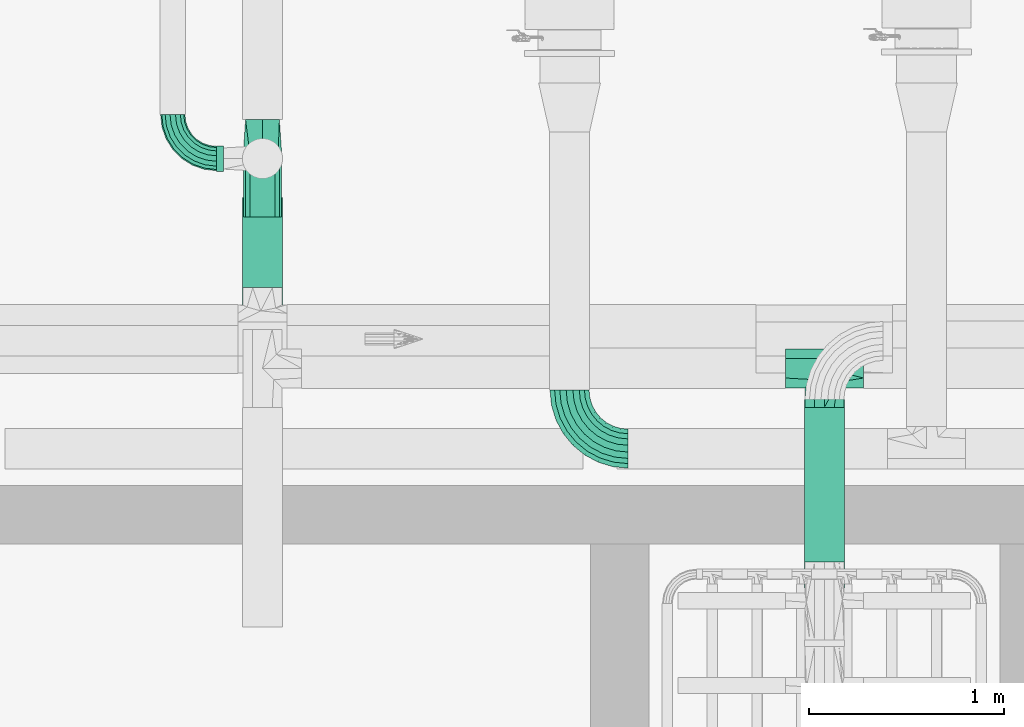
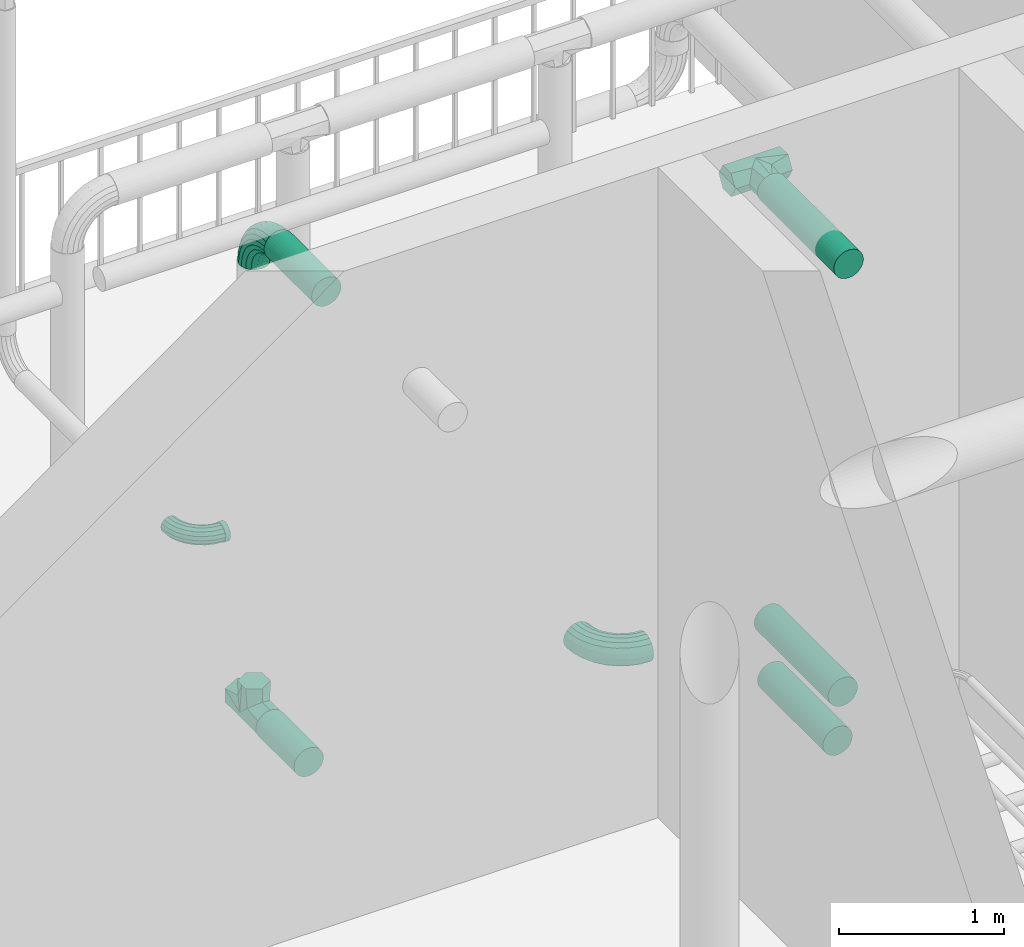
# One storey, part 15 of 28: 6 flow segments, 5 flow fittings.
"""IFC2X3 building model written with IfcOpenShell, lengths in millimetres."""

import ifcopenshell
import ifcopenshell.guid

model = None  # the IFC model being written
_history = None  # IfcOwnerHistory: only IFC2X3 demands one
_inside = {}  # id of a spatial element -> (the spatial element, [elements in it])
_under = {}  # id of a project, library or spatial element -> (it, [spatial elements below it])
_declared = {}  # id of a project -> (the project, [libraries it declares])
_typed = {}  # id of a type object -> (the type object, [elements of that type])
_made_of = {}  # id of a material, layer set ... -> (it, [elements and type objects made of it])


def new_model(schema):
    """Start an empty IFC model of exactly this schema.

    Asked for "IFC4X3", IfcOpenShell would pick the latest addendum, in which some entities
    have other attributes; the version numbers below select the first issue.
    IFC2X3 requires an IfcOwnerHistory on every rooted entity: one is made here for all.
    """
    global model, _history
    if schema == "IFC4X3":
        model = ifcopenshell.file(schema_version=(4, 3, 0, 0))
    else:
        model = ifcopenshell.file(schema=schema)
    _inside.clear()
    _under.clear()
    _declared.clear()
    _typed.clear()
    _made_of.clear()
    _history = None
    if model.schema == "IFC2X3":
        org = make("IfcOrganization", Name="unknown")
        user = make(
            "IfcPersonAndOrganization",
            ThePerson=make("IfcPerson", FamilyName="unknown"),
            TheOrganization=org,
        )
        app = make(
            "IfcApplication",
            ApplicationDeveloper=org,
            Version="unknown",
            ApplicationFullName="unknown",
            ApplicationIdentifier="unknown",
        )
        _history = make(
            "IfcOwnerHistory",
            OwningUser=user,
            OwningApplication=app,
            ChangeAction="ADDED",
            CreationDate=0,
        )
    return model


def make(cls, **values):
    """One entity of the class cls with the attributes given. An attribute that is None is left unset."""
    return model.create_entity(
        cls, **{name: value for name, value in values.items() if value is not None}
    )


def entity(cls, *values):
    """Any entity or typed value of the class cls, its attributes in the order of the schema. None: left unset."""
    e = model.create_entity(cls)
    for i, value in enumerate(values):
        if value is not None:
            e[i] = value
    return e


def rooted(cls, **values):
    """An entity with a GlobalId (a new one), such as an element, a storey or a relation."""
    return make(cls, GlobalId=ifcopenshell.guid.new(), OwnerHistory=_history, **values)


def si_unit(unit_type, name, prefix=None):
    """IfcSIUnit, for example si_unit("LENGTHUNIT", "METRE", prefix="MILLI")."""
    return make("IfcSIUnit", UnitType=unit_type, Prefix=prefix, Name=name)


def converted_unit(unit_type, name, factor, base, dimensions=None, offset=None):
    """IfcConversionBasedUnit, such as the inch: factor (a typed value) times the base unit."""
    return make(
        "IfcConversionBasedUnit"
        if offset is None
        else "IfcConversionBasedUnitWithOffset",
        ConversionOffset=offset,
        Dimensions=None
        if dimensions is None
        else entity("IfcDimensionalExponents", *dimensions),
        UnitType=unit_type,
        Name=name,
        ConversionFactor=make(
            "IfcMeasureWithUnit", ValueComponent=factor, UnitComponent=base
        ),
    )


def assignment(units):
    """IfcUnitAssignment: the units of a project."""
    return None if units is None else make("IfcUnitAssignment", Units=units)


def point(xyz):
    """IfcCartesianPoint."""
    return None if xyz is None else make("IfcCartesianPoint", Coordinates=xyz)


def direction(xyz):
    """IfcDirection."""
    return None if xyz is None else make("IfcDirection", DirectionRatios=xyz)


def frame(location, z_axis=None, x_axis=None):
    """IfcAxis2Placement3D, a coordinate frame: its origin and axes. An axis left out is left unset."""
    return make(
        "IfcAxis2Placement3D",
        Location=point(location),
        Axis=direction(z_axis),
        RefDirection=direction(x_axis),
    )


def frame_2d(location, x_axis=None):
    """IfcAxis2Placement2D, a coordinate frame in the plane: its origin and x axis."""
    return make(
        "IfcAxis2Placement2D", Location=point(location), RefDirection=direction(x_axis)
    )


def origin():
    """The frame at (0, 0, 0) with its axes left unset."""
    return frame((0.0, 0.0, 0.0))


def origin_2d_with_axis():
    """The frame at (0, 0) in the plane with the x axis (1, 0) written out."""
    return frame_2d((0.0, 0.0), x_axis=(1.0, 0.0))


def place(relative_to, where):
    """IfcLocalPlacement: puts the frame where relative to a parent placement (None: the world)."""
    return make(
        "IfcLocalPlacement", PlacementRelTo=relative_to, RelativePlacement=where
    )


def context(
    kind, dimensions, precision=None, world=None, true_north=None, identifier=None
):
    """IfcGeometricRepresentationContext, for example the 3D "Model" context."""
    return make(
        "IfcGeometricRepresentationContext",
        ContextIdentifier=identifier,
        ContextType=kind,
        CoordinateSpaceDimension=dimensions,
        Precision=precision,
        WorldCoordinateSystem=world,
        TrueNorth=true_north,
    )


def subcontext(parent, identifier, kind, view, scale=None):
    """IfcGeometricRepresentationSubContext, for example "Body" below "Model"."""
    return make(
        "IfcGeometricRepresentationSubContext",
        ContextIdentifier=identifier,
        ContextType=kind,
        ParentContext=parent,
        TargetScale=scale,
        TargetView=view,
    )


def project(units=None, contexts=None):
    """IfcProject with its units and contexts."""
    return rooted(
        "IfcProject",
        Name="project",
        RepresentationContexts=contexts,
        UnitsInContext=assignment(units),
    )


def spatial(cls, under=None, at=None, **own):
    """A site, building, storey or space (cls), placed at a placement, below another one or the project."""
    s = rooted(cls, ObjectPlacement=at, **own)
    if under is not None:
        _under.setdefault(under.id(), (under, []))[1].append(s)
    return s


def profile(cls, at=None, kind="AREA", **sizes):
    """A parametric profile (cls). Its sizes go by their IFC names, for example OverallWidth=200.0."""
    return make(cls, ProfileType=kind, Position=at, **sizes)


def circle(**sizes):
    """IfcCircleProfileDef."""
    return profile("IfcCircleProfileDef", **sizes)


def extrude(swept, where, along, depth):
    """IfcExtrudedAreaSolid: the profile swept, set in the frame where, extruded along a direction by depth."""
    return make(
        "IfcExtrudedAreaSolid",
        SweptArea=swept,
        Position=where,
        ExtrudedDirection=direction(along),
        Depth=depth,
    )


def faces_of(points, faces, orient=None, outer=None):
    """IfcFace entities. A face is a list of loops; a loop is a list of indices into points, from 0.

    orient and outer hold one flag for each loop. By default every Orientation is true, the
    first loop of a face is its IfcFaceOuterBound and the others are IfcFaceBound.
    """
    made = []
    for i, loops in enumerate(faces):
        bounds = []
        for j, loop in enumerate(loops):
            is_outer = j == 0 if outer is None else outer[i][j]
            bounds.append(
                make(
                    "IfcFaceOuterBound" if is_outer else "IfcFaceBound",
                    Bound=make("IfcPolyLoop", Polygon=[points[k] for k in loop]),
                    Orientation=True if orient is None else orient[i][j],
                )
            )
        made.append(make("IfcFace", Bounds=bounds))
    return made


def faceted_brep(points, faces, orient=None, outer=None, voids=None):
    """IfcFacetedBrep: a solid bounded by flat faces; with voids (closed shells), ...WithVoids."""
    shared = [point(p) for p in points]
    hull = make("IfcClosedShell", CfsFaces=faces_of(shared, faces, orient, outer))
    if voids is None:
        return make("IfcFacetedBrep", Outer=hull)
    return make(
        "IfcFacetedBrepWithVoids",
        Outer=hull,
        Voids=[
            make(cls, CfsFaces=faces_of(shared, fs, o, b)) for cls, fs, o, b in voids
        ],
    )


def shape(context_of_items, identifier, shape_type, items):
    """IfcShapeRepresentation: the items that make up one representation, for example the "Body"."""
    return make(
        "IfcShapeRepresentation",
        ContextOfItems=context_of_items,
        RepresentationIdentifier=identifier,
        RepresentationType=shape_type,
        Items=items,
    )


def source(mapping_origin, context_of_items, identifier, shape_type, items):
    """IfcRepresentationMap: a shape defined once, which mapped items show again and again."""
    return make(
        "IfcRepresentationMap",
        MappingOrigin=mapping_origin,
        MappedRepresentation=shape(context_of_items, identifier, shape_type, items),
    )


def transform(
    local_origin,
    x_axis=None,
    y_axis=None,
    z_axis=None,
    scale=None,
    scale2=None,
    scale3=None,
    uniform=True,
):
    """IfcCartesianTransformationOperator3D, or its non-uniform kind. x_axis, y_axis, z_axis: its Axis1, 2, 3."""
    if uniform:
        return make(
            "IfcCartesianTransformationOperator3D",
            Axis1=direction(x_axis),
            Axis2=direction(y_axis),
            LocalOrigin=point(local_origin),
            Scale=scale,
            Axis3=direction(z_axis),
        )
    return make(
        "IfcCartesianTransformationOperator3DnonUniform",
        Axis1=direction(x_axis),
        Axis2=direction(y_axis),
        LocalOrigin=point(local_origin),
        Scale=scale,
        Axis3=direction(z_axis),
        Scale2=scale2,
        Scale3=scale3,
    )


def mapped(mapping_source, mapping_target):
    """IfcMappedItem: shows the shape of a source again, moved by a transform."""
    return make(
        "IfcMappedItem", MappingSource=mapping_source, MappingTarget=mapping_target
    )


def material(Name=None, Category=None):
    """IfcMaterial."""
    return make("IfcMaterial", Name=Name, Category=Category)


def made_of(thing, what):
    """Note that an element or type object is made of a material, layer set ...; save() writes the relation."""
    if what is not None:
        _made_of.setdefault(what.id(), (what, []))[1].append(thing)
    return thing


def type_object(cls, material=None, **own):
    """A type object (cls), such as IfcWallType, which elements share."""
    return made_of(rooted(cls, **own), material)


def type_shapes(of_type, sources):
    """Give a type object the sources (RepresentationMaps) that its elements show as mapped items."""
    of_type.RepresentationMaps = sources


def element(
    cls,
    number,
    at=None,
    inside=None,
    cuts=None,
    type_object=None,
    material=None,
    context=None,
    identifier="Body",
    shape_type=None,
    held_by="IfcProductDefinitionShape",
    body=None,
    shapes=None,
    **own,
):
    """One element of the class cls, such as IfcWall. Its Tag is "e" and its number.

    at: its placement. inside: the storey or other place that contains it. cuts: it is an
    opening in that element (IfcRelVoidsElement). A single representation is given by context,
    identifier, shape_type and body (its items); several are given by shapes. held_by: the class
    of the entity that holds the representations. save() writes the other relations.
    """
    e = rooted(cls, Tag="e%d" % number, ObjectPlacement=at, **own)
    if body is not None:
        shapes = [shape(context, identifier, shape_type, body)]
    if shapes is not None:
        e.Representation = make(held_by, Representations=shapes)
    if inside is not None:
        _inside.setdefault(inside.id(), (inside, []))[1].append(e)
    if cuts is not None:
        rooted(
            "IfcRelVoidsElement", RelatingBuildingElement=cuts, RelatedOpeningElement=e
        )
    if type_object is not None:
        _typed.setdefault(type_object.id(), (type_object, []))[1].append(e)
    return made_of(e, material)


def aggregate(whole, parts):
    """IfcRelAggregates: a whole, such as a stair, and the parts it consists of."""
    return rooted("IfcRelAggregates", RelatingObject=whole, RelatedObjects=parts)


def save(model, path):
    """Write the relations noted so far, then the file.

    IfcRelAggregates (storeys below a building ...), IfcRelContainedInSpatialStructure (elements
    in a storey), IfcRelDefinesByType, IfcRelAssociatesMaterial and IfcRelDeclares: one each for
    every whole, place, type object, material and project.
    """
    for whole, parts in _under.values():
        aggregate(whole, parts)
    for where, things in _inside.values():
        rooted(
            "IfcRelContainedInSpatialStructure",
            RelatedElements=things,
            RelatingStructure=where,
        )
    for kind, things in _typed.values():
        rooted("IfcRelDefinesByType", RelatedObjects=things, RelatingType=kind)
    for what, things in _made_of.values():
        rooted("IfcRelAssociatesMaterial", RelatedObjects=things, RelatingMaterial=what)
    for by, libraries in _declared.values():
        rooted("IfcRelDeclares", RelatingContext=by, RelatedDefinitions=libraries)
    model.write(path)


model = new_model("IFC2X3")

# Units and contexts
model_context = context("Model", 3, precision=0.01, world=origin(), true_north=direction((6.123031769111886e-17, 1.0)))
body_context = subcontext(model_context, "Body", "Model", "MODEL_VIEW")
ifc_project = project(units=[si_unit("LENGTHUNIT", "METRE", prefix="MILLI"), converted_unit("PLANEANGLEUNIT", "DEGREE", entity("IfcPlaneAngleMeasure", 0.017453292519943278), si_unit("PLANEANGLEUNIT", "RADIAN"), dimensions=[0, 0, 0, 0, 0, 0, 0]), si_unit("AREAUNIT", "SQUARE_METRE")], contexts=[model_context])

# Site, building, storey
site_placement = place(None, frame((7776.576483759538, 118.3519876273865, 0.0)))
site = spatial("IfcSite", under=ifc_project, at=site_placement, Name="Default", CompositionType="ELEMENT")
building_placement = place(site_placement, origin())
building = spatial("IfcBuilding", under=site, at=building_placement, Name="Bygning (endres i Project Information)", CompositionType="ELEMENT")
storey_placement = place(building_placement, frame((0.0, 0.0, 14000.0)))
storey = spatial("IfcBuildingStorey", under=building, at=storey_placement, Name="Plan U1 - Arbeid", CompositionType="ELEMENT", Elevation=14000.000000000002)

# Flow segments
ifc_material = material(Name="SS 2343 Rustfritt stål, prosessrør, generisk")
pipe_segment_type = type_object("IfcPipeSegmentType", Name="Pipe Types:AISI 304L Rustfritt", PredefinedType="NOTDEFINED", material=ifc_material)
flow_segment_1_placement = place(storey_placement, origin())
element("IfcFlowSegment", 1, at=flow_segment_1_placement, inside=storey, type_object=pipe_segment_type, Name="Pipe Types:AISI 304L Rustfritt", ObjectType="Pipe Types:AISI 304L Rustfritt", context=body_context, shape_type="SweptSolid", body=[
    extrude(circle(Radius=103.0, at=frame_2d((4.331468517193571e-12, -2.165734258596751e-12), x_axis=(1.0, 0.0))), frame((28974.00137486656, 24105.75730578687, 203.0), z_axis=(0.0, 1.0, 0.0), x_axis=(-1.0, 0.0, 0.0)), (0.0, 0.0, 1.0), 791.9999999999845),
])
flow_segment_2_placement = place(storey_placement, origin())
element("IfcFlowSegment", 2, at=flow_segment_2_placement, inside=storey, type_object=pipe_segment_type, Name="Pipe Types:AISI 304L Rustfritt", ObjectType="Pipe Types:AISI 304L Rustfritt", context=body_context, shape_type="SweptSolid", body=[
    extrude(circle(Radius=103.0, at=frame_2d((-8.662937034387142e-12, 0.0), x_axis=(1.0, 0.0))), frame((28974.001374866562, 23972.377048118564, 3803.0), z_axis=(0.0, 1.0, 0.0), x_axis=(-1.0, 0.0, 0.0)), (0.0, 0.0, 1.0), 925.3802576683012),
])
flow_segment_3_placement = place(storey_placement, origin())
element("IfcFlowSegment", 3, at=flow_segment_3_placement, inside=storey, type_object=pipe_segment_type, Name="Pipe Types:AISI 304L Rustfritt", ObjectType="Pipe Types:AISI 304L Rustfritt", context=body_context, shape_type="SweptSolid", body=[
    extrude(circle(Radius=103.0, at=frame_2d((-4.331468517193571e-12, 2.1657342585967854e-12), x_axis=(1.0, 0.0))), frame((28974.001374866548, 24042.757305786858, 603.0), z_axis=(0.0, 1.0, 0.0), x_axis=(-1.0, 0.0, 0.0)), (0.0, 0.0, 1.0), 895.0000000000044),
])
flow_segment_4_placement = place(storey_placement, origin())
element("IfcFlowSegment", 4, at=flow_segment_4_placement, inside=storey, type_object=pipe_segment_type, Name="Pipe Types:AISI 304L Rustfritt", ObjectType="Pipe Types:AISI 304L Rustfritt", context=body_context, shape_type="SweptSolid", body=[
    extrude(circle(Radius=103.0, at=frame_2d((4.331468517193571e-12, 0.0), x_axis=(1.0, 0.0))), frame((26093.826249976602, 25510.519805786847, 203.0), z_axis=(0.0, 1.0, 0.0), x_axis=(-1.0, 0.0, 0.0)), (0.0, 0.0, 1.0), 462.23750000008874),
])
flow_segment_5_placement = place(storey_placement, origin())
element("IfcFlowSegment", 5, at=flow_segment_5_placement, inside=storey, type_object=pipe_segment_type, Name="Pipe Types:AISI 304L Rustfritt", ObjectType="Pipe Types:AISI 304L Rustfritt", context=body_context, shape_type="SweptSolid", body=[
    extrude(circle(Radius=103.0, at=frame_2d((-4.331468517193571e-12, 0.0), x_axis=(1.0, 0.0))), frame((26093.82624997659, 25297.757305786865, 3803.0), z_axis=(0.0, 1.0, 0.0), x_axis=(-1.0, 0.0, 0.0)), (0.0, 0.0, 1.0), 575.0000000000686),
])
flow_segment_6_placement = place(storey_placement, origin())
element("IfcFlowSegment", 6, at=flow_segment_6_placement, inside=storey, type_object=pipe_segment_type, Name="Pipe Types:AISI 304L Rustfritt", ObjectType="Pipe Types:AISI 304L Rustfritt", context=body_context, shape_type="SweptSolid", body=[
    extrude(circle(Radius=65.5, at=origin_2d_with_axis()), frame((25859.001374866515, 26172.757305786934, 1580.0), z_axis=(1.0, 0.0, 0.0), x_axis=(0.0, 1.0, 0.0)), (0.0, 0.0, 1.0), 34.82487511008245),
])

# Flow fittings
pipe_fitting_type_1 = type_object("IfcPipeFittingType", Name="VA_prosess_rustfritt_bend_D+100:VA_prosess_rustfritt_bend_D+100", PredefinedType="NOTDEFINED", material=ifc_material)
shared_shape_1 = source(origin(), body_context, "Body", "Brep", [
    faceted_brep([(-221.96387119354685, -92.314112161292, 0.0), (-223.1404097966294, -86.39925317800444, 34.202014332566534), (-300.0, -93.96926207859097, 34.202014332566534), (-300.0, -100.0, 0.0), (-226.52811768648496, -69.36809551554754, 64.27876096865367), (-300.0, -76.60444431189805, 64.27876096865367), (-231.71838729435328, -43.274848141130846, 86.60254037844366), (-300.0, -50.0, 86.60254037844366), (-238.08519550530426, -11.266741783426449, 98.48077530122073), (-300.0, -17.36481776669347, 98.48077530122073), (-244.86061128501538, 22.79557354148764, 98.48077530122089), (-300.0, 17.36481776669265, 98.48077530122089), (-251.22741949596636, 54.80367989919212, 86.60254037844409), (-300.0, 50.0, 86.60254037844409), (-256.41768910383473, 80.89692727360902, 64.27876096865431), (-300.0, 76.60444431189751, 64.27876096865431), (-259.8053969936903, 97.92808493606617, 34.202014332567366), (-300.0, 93.96926207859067, 34.202014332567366), (-260.9819355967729, 103.84294391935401, 0.0), (-300.0, 100.0, 0.0), (-259.8053969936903, 97.92808493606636, -34.20201433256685), (-300.0, 93.96926207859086, -34.20201433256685), (-256.4176891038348, 80.89692727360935, -64.2787609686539), (-300.0, 76.60444431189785, -64.2787609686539), (-251.22741949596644, 54.80367989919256, -86.60254037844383), (-300.0, 50.0, -86.60254037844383), (-244.86061128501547, 22.795573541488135, -98.48077530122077), (-300.0, 17.364817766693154, -98.48077530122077), (-238.08519550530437, -11.26674178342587, -98.48077530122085), (-300.0, -17.36481776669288, -98.48077530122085), (-231.71838729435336, -43.27484814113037, -86.60254037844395), (-300.0, -50.0, -86.60254037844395), (-226.52811768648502, -69.3680955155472, -64.27876096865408), (-300.0, -76.6044443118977, -64.27876096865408), (-223.14040979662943, -86.39925317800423, -34.2020143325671), (-300.0, -93.96926207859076, -34.2020143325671), (-146.9266270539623, -69.55181300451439, 0.0), (-149.2344905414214, -63.98013767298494, 34.202014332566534), (-155.87971860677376, -47.937137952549, 64.27876096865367), (-166.06079867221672, -23.357836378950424, 86.60254037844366), (-178.54974222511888, 6.79314052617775, 98.48077530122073), (-191.8401983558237, 38.87913996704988, 98.48077530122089), (-204.32914190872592, 69.03011687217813, 86.60254037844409), (-214.51022197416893, 93.6094184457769, 64.27876096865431), (-221.15545003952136, 109.65241816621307, 34.202014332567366), (-223.46331352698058, 115.2240934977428, 0.0), (-221.15545003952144, 109.65241816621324, -34.20201433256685), (-214.51022197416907, 93.60941844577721, -64.2787609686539), (-204.3291419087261, 69.03011687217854, -86.60254037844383), (-191.8401983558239, 38.87913996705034, -98.48077530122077), (-178.5497422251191, 6.7931405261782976, -98.48077530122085), (-166.0607986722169, -23.357836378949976, -86.60254037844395), (-155.8797186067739, -47.937137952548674, -64.27876096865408), (-149.23449054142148, -63.98013767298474, -34.2020143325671), (-77.77190679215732, -32.58784492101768, 0.0), (-81.12240526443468, -27.573469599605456, 34.202014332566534), (-90.76978111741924, -13.135151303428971, 64.27876096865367), (-105.5504184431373, 8.985635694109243, 86.60254037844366), (-123.68155424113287, 36.120798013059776, 98.48077530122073), (-142.97630594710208, 64.997434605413, 98.48077530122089), (-161.1074417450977, 92.13259692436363, 86.60254037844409), (-175.88807907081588, 114.253383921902, 64.27876096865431), (-185.53545492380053, 128.69170221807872, 34.202014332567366), (-188.88595339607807, 133.70607753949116, 0.0), (-185.53545492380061, 128.69170221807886, -34.20201433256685), (-175.88807907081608, 114.25338392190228, -64.2787609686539), (-161.10744174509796, 92.132596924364, -86.60254037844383), (-142.97630594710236, 64.99743460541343, -98.48077530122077), (-123.68155424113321, 36.120798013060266, -98.48077530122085), (-105.55041844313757, 8.985635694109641, -86.60254037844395), (-90.76978111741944, -13.135151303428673, -64.27876096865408), (-81.12240526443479, -27.573469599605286, -34.2020143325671), (-17.15728752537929, 17.157287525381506, 0.0), (-21.421663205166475, 21.42166320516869, 34.202014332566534), (-33.70044360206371, 33.700443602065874, 64.27876096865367), (-52.51262658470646, 52.512626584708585, 86.60254037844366), (-75.58918524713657, 75.58918524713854, 98.48077530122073), (-100.14674604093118, 100.14674604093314, 98.48077530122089), (-123.22330470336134, 123.22330470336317, 86.60254037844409), (-142.03548768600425, 142.035487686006, 64.27876096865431), (-154.3142680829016, 154.3142680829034, 34.202014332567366), (-158.578643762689, 158.57864376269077, 0.0), (-154.31426808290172, 154.31426808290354, -34.20201433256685), (-142.03548768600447, 142.03548768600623, -64.2787609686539), (-123.22330470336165, 123.2233047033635, -86.60254037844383), (-100.14674604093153, 100.1467460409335, -98.48077530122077), (-75.58918524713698, 75.58918524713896, -98.48077530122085), (-52.51262658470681, 52.512626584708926, -86.60254037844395), (-33.700443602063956, 33.70044360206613, -64.27876096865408), (-21.42166320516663, 21.421663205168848, -34.2020143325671), (32.58784492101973, 77.77190679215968, 0.0), (27.573469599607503, 81.12240526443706, 34.202014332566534), (13.135151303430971, 90.76978111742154, 64.27876096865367), (-8.985635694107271, 105.55041844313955, 86.60254037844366), (-36.1207980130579, 123.68155424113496, 98.48077530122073), (-64.99743460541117, 142.97630594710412, 98.48077530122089), (-92.13259692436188, 161.10744174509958, 86.60254037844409), (-114.25338392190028, 175.88807907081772, 64.27876096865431), (-128.69170221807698, 185.53545492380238, 34.202014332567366), (-133.70607753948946, 188.8859533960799, 0.0), (-128.69170221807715, 185.5354549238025, -34.20201433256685), (-114.25338392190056, 175.8880790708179, -64.2787609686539), (-92.13259692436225, 161.10744174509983, -86.60254037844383), (-64.99743460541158, 142.9763059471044, -98.48077530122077), (-36.12079801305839, 123.68155424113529, -98.48077530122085), (-8.985635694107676, 105.55041844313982, -86.60254037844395), (13.13515130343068, 90.76978111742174, -64.27876096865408), (27.573469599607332, 81.12240526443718, -34.2020143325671), (69.55181300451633, 146.92662705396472, 0.0), (63.98013767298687, 149.23449054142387, 34.202014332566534), (47.937137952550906, 155.87971860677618, 64.27876096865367), (23.357836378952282, 166.06079867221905, 86.60254037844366), (-6.793140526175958, 178.54974222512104, 98.48077530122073), (-38.879139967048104, 191.8401983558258, 98.48077530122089), (-69.03011687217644, 204.32914190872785, 86.60254037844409), (-93.60941844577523, 214.5102219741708, 64.27876096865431), (-109.65241816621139, 221.15545003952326, 34.202014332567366), (-115.22409349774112, 223.46331352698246, 0.0), (-109.65241816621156, 221.15545003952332, -34.20201433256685), (-93.60941844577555, 214.51022197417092, -64.2787609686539), (-69.03011687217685, 204.32914190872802, -86.60254037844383), (-38.87913996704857, 191.840198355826, -98.48077530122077), (-6.793140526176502, 178.54974222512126, -98.48077530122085), (23.357836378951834, 166.06079867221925, -86.60254037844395), (47.93713795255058, 155.87971860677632, -64.27876096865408), (63.98013767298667, 149.23449054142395, -34.2020143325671), (92.31411216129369, 221.96387119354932, 0.0), (86.39925317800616, 223.1404097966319, 34.202014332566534), (69.36809551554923, 226.52811768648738, 64.27876096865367), (43.27484814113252, 231.71838729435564, 86.60254037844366), (11.266741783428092, 238.08519550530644, 98.48077530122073), (-22.795573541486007, 244.86061128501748, 98.48077530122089), (-54.80367989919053, 251.22741949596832, 86.60254037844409), (-80.89692727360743, 256.4176891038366, 64.27876096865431), (-97.9280849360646, 259.80539699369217, 34.202014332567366), (-103.84294391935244, 260.9819355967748, 0.0), (-97.92808493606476, 259.8053969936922, -34.20201433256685), (-80.89692727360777, 256.41768910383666, -64.2787609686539), (-54.80367989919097, 251.2274194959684, -86.60254037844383), (-22.795573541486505, 244.8606112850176, -98.48077530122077), (11.266741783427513, 238.08519550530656, -98.48077530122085), (43.27484814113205, 231.71838729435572, -86.60254037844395), (69.36809551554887, 226.52811768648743, -64.27876096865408), (86.39925317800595, 223.14040979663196, -34.2020143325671), (100.0, 300.0, 0.0), (93.96926207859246, 300.0, 34.202014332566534), (76.60444431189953, 300.0, 64.27876096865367), (50.0, 300.0, 86.60254037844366), (17.36481776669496, 300.0, 98.48077530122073), (-17.36481776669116, 300.0, 98.48077530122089), (-50.0, 300.0, 86.60254037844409), (-76.60444431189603, 300.0, 64.27876096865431), (-93.9692620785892, 300.0, 34.202014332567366), (-100.0, 300.0, 0.0), (-93.96926207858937, 300.0, -34.20201433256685), (-76.60444431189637, 300.0, -64.2787609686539), (-50.0, 300.0, -86.60254037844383), (-17.364817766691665, 300.0, -98.48077530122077), (17.36481776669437, 300.0, -98.48077530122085), (50.0, 300.0, -86.60254037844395), (76.60444431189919, 300.0, -64.27876096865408), (93.96926207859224, 300.0, -34.2020143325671)], [[[0, 1, 2, 3]], [[1, 4, 5, 2]], [[4, 6, 7, 5]], [[6, 8, 9, 7]], [[8, 10, 11, 9]], [[10, 12, 13, 11]], [[12, 14, 15, 13]], [[14, 16, 17, 15]], [[16, 18, 19, 17]], [[18, 20, 21, 19]], [[20, 22, 23, 21]], [[22, 24, 25, 23]], [[24, 26, 27, 25]], [[26, 28, 29, 27]], [[28, 30, 31, 29]], [[30, 32, 33, 31]], [[32, 34, 35, 33]], [[34, 0, 3, 35]], [[36, 37, 1, 0]], [[37, 38, 4, 1]], [[38, 39, 6, 4]], [[39, 40, 8, 6]], [[40, 41, 10, 8]], [[41, 42, 12, 10]], [[42, 43, 14, 12]], [[43, 44, 16, 14]], [[44, 45, 18, 16]], [[45, 46, 20, 18]], [[46, 47, 22, 20]], [[47, 48, 24, 22]], [[48, 49, 26, 24]], [[49, 50, 28, 26]], [[50, 51, 30, 28]], [[51, 52, 32, 30]], [[52, 53, 34, 32]], [[53, 36, 0, 34]], [[54, 55, 37, 36]], [[55, 56, 38, 37]], [[56, 57, 39, 38]], [[57, 58, 40, 39]], [[58, 59, 41, 40]], [[59, 60, 42, 41]], [[60, 61, 43, 42]], [[61, 62, 44, 43]], [[62, 63, 45, 44]], [[63, 64, 46, 45]], [[64, 65, 47, 46]], [[65, 66, 48, 47]], [[66, 67, 49, 48]], [[67, 68, 50, 49]], [[68, 69, 51, 50]], [[69, 70, 52, 51]], [[70, 71, 53, 52]], [[71, 54, 36, 53]], [[72, 73, 55, 54]], [[73, 74, 56, 55]], [[74, 75, 57, 56]], [[75, 76, 58, 57]], [[76, 77, 59, 58]], [[77, 78, 60, 59]], [[78, 79, 61, 60]], [[79, 80, 62, 61]], [[80, 81, 63, 62]], [[81, 82, 64, 63]], [[82, 83, 65, 64]], [[83, 84, 66, 65]], [[84, 85, 67, 66]], [[85, 86, 68, 67]], [[86, 87, 69, 68]], [[87, 88, 70, 69]], [[88, 89, 71, 70]], [[89, 72, 54, 71]], [[90, 91, 73, 72]], [[91, 92, 74, 73]], [[92, 93, 75, 74]], [[93, 94, 76, 75]], [[94, 95, 77, 76]], [[95, 96, 78, 77]], [[96, 97, 79, 78]], [[97, 98, 80, 79]], [[98, 99, 81, 80]], [[99, 100, 82, 81]], [[100, 101, 83, 82]], [[101, 102, 84, 83]], [[102, 103, 85, 84]], [[103, 104, 86, 85]], [[104, 105, 87, 86]], [[105, 106, 88, 87]], [[106, 107, 89, 88]], [[107, 90, 72, 89]], [[108, 109, 91, 90]], [[109, 110, 92, 91]], [[110, 111, 93, 92]], [[111, 112, 94, 93]], [[112, 113, 95, 94]], [[113, 114, 96, 95]], [[114, 115, 97, 96]], [[115, 116, 98, 97]], [[116, 117, 99, 98]], [[117, 118, 100, 99]], [[118, 119, 101, 100]], [[119, 120, 102, 101]], [[120, 121, 103, 102]], [[121, 122, 104, 103]], [[122, 123, 105, 104]], [[123, 124, 106, 105]], [[124, 125, 107, 106]], [[125, 108, 90, 107]], [[126, 127, 109, 108]], [[127, 128, 110, 109]], [[128, 129, 111, 110]], [[129, 130, 112, 111]], [[130, 131, 113, 112]], [[131, 132, 114, 113]], [[132, 133, 115, 114]], [[133, 134, 116, 115]], [[134, 135, 117, 116]], [[135, 136, 118, 117]], [[136, 137, 119, 118]], [[137, 138, 120, 119]], [[138, 139, 121, 120]], [[139, 140, 122, 121]], [[140, 141, 123, 122]], [[141, 142, 124, 123]], [[142, 143, 125, 124]], [[143, 126, 108, 125]], [[144, 145, 127, 126]], [[145, 146, 128, 127]], [[146, 147, 129, 128]], [[147, 148, 130, 129]], [[148, 149, 131, 130]], [[149, 150, 132, 131]], [[150, 151, 133, 132]], [[151, 152, 134, 133]], [[152, 153, 135, 134]], [[153, 154, 136, 135]], [[154, 155, 137, 136]], [[155, 156, 138, 137]], [[156, 157, 139, 138]], [[157, 158, 140, 139]], [[158, 159, 141, 140]], [[159, 160, 142, 141]], [[160, 161, 143, 142]], [[161, 144, 126, 143]], [[3, 2, 5, 7, 9, 11, 13, 15, 17, 19, 21, 23, 25, 27, 29, 31, 33, 35]], [[161, 160, 159, 158, 157, 156, 155, 154, 153, 152, 151, 150, 149, 148, 147, 146, 145, 144]]]),
])
type_shapes(pipe_fitting_type_1, [shared_shape_1])
for number, where, z_axis, x_axis in (
    (7, (26093.826249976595, 26172.757305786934, 3803.0), (1.0, 0.0, 0.0), (0.0, 0.0, 1.0)),
    (8, (27667.696048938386, 24685.75730578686, 903.5000000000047), (0.0, 0.0, 1.0), (0.0, -1.0, 0.0)),
):
    element("IfcFlowFitting", number, at=place(storey_placement, frame(where, z_axis=z_axis, x_axis=x_axis)), inside=storey, type_object=pipe_fitting_type_1, material=ifc_material, Name="VA_prosess_rustfritt_bend_D+100:VA_prosess_rustfritt_bend_D+100", ObjectType="VA_prosess_rustfritt_bend_D+100:VA_prosess_rustfritt_bend_D+100", context=body_context, shape_type="MappedRepresentation", body=[
        mapped(shared_shape_1, transform((0.0, 0.0, 0.0), scale=1.0)),
    ])
pipe_fitting_type_2 = type_object("IfcPipeFittingType", Name="VA_prosess_rustfritt_T_D=L:T-rør_prosess_D=L", PredefinedType="NOTDEFINED", material=ifc_material)
shared_shape_2 = source(origin(), body_context, "Body", "Brep", [
    faceted_brep([(-200.0, -100.0, 0.0), (-200.0, -87.49999999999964, 21.65063509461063), (-200.0, -75.0, 43.30127018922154), (-200.0, -50.0, 86.60254037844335), (-200.0, 0.0, 86.60254037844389), (-200.0, 50.0, 86.60254037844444), (-200.0, 75.0, 43.30127018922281), (-200.0, 100.0, 0.0), (-200.0, 79.16042262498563, -36.0952068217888), (-200.0, 50.0, -86.60254037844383), (-200.0, 0.0, -86.60254037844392), (-200.0, -50.0, -86.60254037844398), (-200.0, -75.0, -43.301270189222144), (200.0, 50.0, -86.60254037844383), (200.0, 75.0, -43.30127018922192), (200.0, 100.0, 0.0), (200.0, 75.0, 43.30127018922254), (200.0, 50.0, 86.60254037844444), (200.0, 0.0, 86.60254037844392), (200.0, -50.0, 86.60254037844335), (200.0, -75.0, 43.3012701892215), (200.0, -100.0, 0.0), (200.0, -87.50000000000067, -21.650635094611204), (200.0, -75.0, -43.30127018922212), (200.0, -50.0, -86.60254037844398), (200.0, 0.0, -86.60254037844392), (85.43158849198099, -85.43158849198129, 35.2789248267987), (70.86317698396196, -70.8631769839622, 70.55784965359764), (0.0, 0.0, 100.0), (-58.003463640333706, -58.00346364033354, 81.45918122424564), (100.0, -100.0, 0.0), (-100.0, -100.0, 0.0), (-80.86239826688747, -80.86239826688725, 37.12052237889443), (-79.00173182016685, -79.00173182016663, 40.7295906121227), (80.86239826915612, -80.86239826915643, -37.120522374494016), (-85.43158849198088, -85.43158849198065, -35.27892482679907), (0.0, 0.0, -100.0), (79.00173182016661, -79.00173182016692, -40.729590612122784), (58.003463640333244, -58.0034636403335, -81.45918122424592), (-70.86317698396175, -70.86317698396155, -70.55784965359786), (50.0, -200.0, -86.60254037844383), (79.16042328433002, -200.0, -36.09520567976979), (100.0, -200.0, 0.0), (75.0, -200.0, 43.301270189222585), (50.0, -200.0, 86.60254037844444), (0.0, -200.0, 86.60254037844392), (-50.0, -200.0, 86.60254037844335), (-79.16042252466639, -200.0, 36.09520699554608), (-100.0, -200.0, 0.0), (-75.0, -200.0, -43.30127018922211), (-50.0, -200.0, -86.60254037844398), (0.0, -200.0, -86.60254037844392)], [[[0, 1, 2, 3, 4, 5, 6, 7, 8, 9, 10, 11, 12]], [[13, 14, 15, 16, 17, 18, 19, 20, 21, 22, 23, 24, 25]], [[20, 26, 21]], [[27, 20, 19]], [[28, 19, 18, 17]], [[2, 29, 3]], [[21, 26, 30]], [[0, 31, 1]], [[20, 27, 26]], [[19, 28, 27]], [[7, 6, 5, 17, 16, 15]], [[3, 28, 5, 4]], [[3, 29, 28]], [[32, 2, 1]], [[5, 28, 17]], [[2, 32, 33, 29]], [[31, 32, 1]], [[9, 8, 7, 15, 14, 13]], [[30, 34, 22]], [[0, 35, 31]], [[9, 13, 36]], [[23, 34, 37, 38]], [[10, 9, 36, 11]], [[36, 13, 25, 24]], [[30, 22, 21]], [[34, 23, 22]], [[38, 24, 23]], [[39, 11, 36]], [[12, 35, 0]], [[12, 39, 35]], [[39, 12, 11]], [[24, 38, 36]], [[40, 41, 42, 43, 44, 45, 46, 47, 48, 49, 50, 51]], [[33, 46, 29]], [[31, 48, 47]], [[46, 33, 47]], [[47, 33, 32, 31]], [[29, 46, 45]], [[30, 43, 42]], [[45, 27, 28]], [[27, 44, 43]], [[29, 45, 28]], [[43, 30, 26, 27]], [[45, 44, 27]], [[37, 40, 38]], [[30, 42, 41]], [[40, 37, 41]], [[41, 37, 34, 30]], [[38, 40, 51]], [[31, 49, 48]], [[51, 39, 36]], [[39, 50, 49]], [[38, 51, 36]], [[49, 31, 35, 39]], [[51, 50, 39]]]),
])
type_shapes(pipe_fitting_type_2, [shared_shape_2])
for number, where, z_axis, x_axis in (
    (9, (26093.826249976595, 26172.757305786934, 203.0), (-1.0, 0.0, 0.0), (0.0, 1.0, 0.0)),
    (10, (28974.00137486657, 25097.757305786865, 3803.0), (0.0, 0.0, -1.0), (-1.0, 0.0, 0.0)),
):
    element("IfcFlowFitting", number, at=place(storey_placement, frame(where, z_axis=z_axis, x_axis=x_axis)), inside=storey, type_object=pipe_fitting_type_2, material=ifc_material, Name="VA_prosess_rustfritt_T_D=L:T-rør_prosess_D=L", ObjectType="VA_prosess_rustfritt_T_D=L:T-rør_prosess_D=L", context=body_context, shape_type="MappedRepresentation", body=[
        mapped(shared_shape_2, transform((0.0, 0.0, 0.0), scale=1.0)),
    ])
pipe_fitting_type_3 = type_object("IfcPipeFittingType", Name="VA_prosess_rustfritt_bend_D+100:VA_prosess_rustfritt_bend_D+100", PredefinedType="NOTDEFINED", material=ifc_material)
shared_shape_3 = source(origin(), body_context, "Body", "Brep", [
    faceted_brep([(-161.02523148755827, -55.291774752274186, 0.0), (-162.4025127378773, -49.25751132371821, 27.117733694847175), (-225.0, -56.310554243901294, 27.117733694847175), (-225.0, -62.50000000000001, 0.0), (-166.26156904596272, -32.34988091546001, 48.86446765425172), (-225.0, -38.968112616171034, 48.86446765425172), (-171.83806698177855, -7.917647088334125, 60.93299451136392), (-225.0, -13.907558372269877, 60.93299451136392), (-178.0275127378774, 19.20008660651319, 60.93299451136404), (-225.0, 13.90755837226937, 60.93299451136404), (-183.60401067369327, 43.632320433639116, 48.86446765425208), (-225.0, 38.96811261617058, 48.86446765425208), (-187.46306698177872, 60.53995084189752, 27.117733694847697), (-225.0, 56.31055424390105, 27.117733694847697), (-188.8403482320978, 66.57421427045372, 0.0), (-225.0, 62.50000000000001, 0.0), (-187.46306698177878, 60.53995084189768, -27.117733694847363), (-225.0, 56.31055424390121, -27.117733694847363), (-183.60401067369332, 43.63232043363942, -48.86446765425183), (-225.0, 38.96811261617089, -48.86446765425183), (-178.0275127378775, 19.20008660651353, -60.932994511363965), (-225.0, 13.90755837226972, -60.932994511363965), (-171.8380669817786, -7.917647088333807, -60.932994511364), (-225.0, -13.907558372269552, -60.932994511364), (-166.26156904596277, -32.34988091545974, -48.864467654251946), (-225.0, -38.96811261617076, -48.864467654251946), (-162.40251273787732, -49.25751132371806, -27.11773369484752), (-225.0, -56.31055424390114, -27.11773369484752), (-100.25842500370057, -34.028549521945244, 0.0), (-102.94392487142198, -28.452051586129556, 27.117733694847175), (-110.46852829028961, -12.82705158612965, 48.86446765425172), (-121.34189526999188, 9.751727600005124, 60.93299451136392), (-133.41042212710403, 34.812281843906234, 60.93299451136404), (-144.28378910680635, 57.39106103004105, 48.86446765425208), (-151.80839252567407, 73.01606103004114, 27.117733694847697), (-154.49389239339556, 78.59255896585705, 0.0), (-151.80839252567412, 73.01606103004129, -27.117733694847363), (-144.28378910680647, 57.391061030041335, -48.86446765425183), (-133.4104221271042, 34.812281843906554, -60.932994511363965), (-121.34189526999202, 9.751727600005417, -60.932994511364), (-110.46852829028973, -12.827051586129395, -48.864467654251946), (-102.94392487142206, -28.452051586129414, -27.11773369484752), (-45.74668196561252, 0.22344879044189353, 0.0), (-49.60573827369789, 5.06255234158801, 27.117733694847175), (-60.4185737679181, 18.621419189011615, 48.86446765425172), (-76.04357376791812, 38.2145494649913, 60.93299451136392), (-93.3860153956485, 59.96128342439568, 60.93299451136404), (-109.01101539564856, 79.5544137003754, 48.86446765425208), (-119.8238508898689, 93.11328054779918, 27.117733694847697), (-123.68290719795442, 97.95238409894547, 0.0), (-119.82385088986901, 93.11328054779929, -27.117733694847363), (-109.01101539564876, 79.55441370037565, -48.86446765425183), (-93.38601539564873, 59.96128342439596, -60.932994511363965), (-76.04357376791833, 38.214549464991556, -60.932994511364), (-60.418573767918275, 18.62141918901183, -48.864467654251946), (-49.60573827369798, 5.06255234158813, -27.11773369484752), (-0.22344879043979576, 45.7466819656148, 0.0), (-5.062552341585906, 49.60573827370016, 27.117733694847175), (-18.621419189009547, 60.41857376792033, 48.86446765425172), (-38.2145494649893, 76.04357376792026, 60.93299451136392), (-59.96128342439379, 93.38601539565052, 60.93299451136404), (-79.55441370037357, 109.01101539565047, 48.86446765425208), (-93.11328054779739, 119.82385088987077, 27.117733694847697), (-97.9523840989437, 123.6829071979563, 0.0), (-93.1132805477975, 119.82385088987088, -27.117733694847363), (-79.55441370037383, 109.01101539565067, -48.86446765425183), (-59.96128342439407, 93.38601539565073, -60.932994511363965), (-38.21454946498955, 76.04357376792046, -60.932994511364), (-18.621419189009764, 60.418573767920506, -48.864467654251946), (-5.062552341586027, 49.60573827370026, -27.11773369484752), (34.02854952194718, 100.25842500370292, 0.0), (28.452051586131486, 102.94392487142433, 27.117733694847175), (12.827051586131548, 110.4685282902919, 48.86446765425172), (-9.751727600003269, 121.34189526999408, 60.93299451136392), (-34.81228184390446, 133.4104221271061, 60.93299451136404), (-57.39106103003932, 144.28378910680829, 48.86446765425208), (-73.01606103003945, 151.80839252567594, 27.117733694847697), (-78.59255896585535, 154.4938923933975, 0.0), (-73.0160610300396, 151.80839252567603, -27.117733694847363), (-57.3910610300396, 144.28378910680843, -48.86446765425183), (-34.81228184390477, 133.41042212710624, -60.932994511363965), (-9.751727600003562, 121.34189526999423, -60.932994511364), (12.827051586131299, 110.46852829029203, -48.864467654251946), (28.452051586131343, 102.9439248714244, -27.11773369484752), (55.29177475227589, 161.0252314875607, 0.0), (49.257511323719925, 162.40251273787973, 27.117733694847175), (32.34988091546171, 166.2615690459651, 48.86446765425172), (7.917647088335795, 171.8380669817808, 60.93299451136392), (-19.200086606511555, 178.02751273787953, 60.93299451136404), (-43.63232043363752, 183.60401067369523, 48.86446765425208), (-60.539950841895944, 187.46306698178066, 27.117733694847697), (-66.57421427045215, 188.84034823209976, 0.0), (-60.53995084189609, 187.46306698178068, -27.117733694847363), (-43.63232043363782, 183.6040106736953, -48.86446765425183), (-19.2000866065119, 178.02751273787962, -60.932994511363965), (7.917647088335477, 171.83806698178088, -60.932994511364), (32.34988091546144, 166.26156904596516, -48.864467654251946), (49.257511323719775, 162.40251273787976, -27.11773369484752), (62.500000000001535, 225.0, 0.0), (56.31055424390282, 225.0, 27.117733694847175), (38.96811261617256, 225.0, 48.86446765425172), (13.9075583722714, 225.0, 60.93299451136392), (-13.907558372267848, 225.0, 60.93299451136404), (-38.96811261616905, 225.0, 48.86446765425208), (-56.310554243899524, 225.0, 27.117733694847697), (-62.49999999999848, 225.0, 0.0), (-56.31055424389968, 225.0, -27.117733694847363), (-38.968112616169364, 225.0, -48.86446765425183), (-13.907558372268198, 225.0, -60.932994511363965), (13.907558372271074, 225.0, -60.932994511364), (38.968112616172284, 225.0, -48.864467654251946), (56.310554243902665, 225.0, -27.11773369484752)], [[[0, 1, 2, 3]], [[1, 4, 5, 2]], [[4, 6, 7, 5]], [[6, 8, 9, 7]], [[8, 10, 11, 9]], [[10, 12, 13, 11]], [[12, 14, 15, 13]], [[14, 16, 17, 15]], [[16, 18, 19, 17]], [[18, 20, 21, 19]], [[20, 22, 23, 21]], [[22, 24, 25, 23]], [[24, 26, 27, 25]], [[26, 0, 3, 27]], [[28, 29, 1, 0]], [[29, 30, 4, 1]], [[30, 31, 6, 4]], [[31, 32, 8, 6]], [[32, 33, 10, 8]], [[33, 34, 12, 10]], [[34, 35, 14, 12]], [[35, 36, 16, 14]], [[36, 37, 18, 16]], [[37, 38, 20, 18]], [[38, 39, 22, 20]], [[39, 40, 24, 22]], [[40, 41, 26, 24]], [[41, 28, 0, 26]], [[42, 43, 29, 28]], [[43, 44, 30, 29]], [[44, 45, 31, 30]], [[45, 46, 32, 31]], [[46, 47, 33, 32]], [[47, 48, 34, 33]], [[48, 49, 35, 34]], [[49, 50, 36, 35]], [[50, 51, 37, 36]], [[51, 52, 38, 37]], [[52, 53, 39, 38]], [[53, 54, 40, 39]], [[54, 55, 41, 40]], [[55, 42, 28, 41]], [[56, 57, 43, 42]], [[57, 58, 44, 43]], [[58, 59, 45, 44]], [[59, 60, 46, 45]], [[60, 61, 47, 46]], [[61, 62, 48, 47]], [[62, 63, 49, 48]], [[63, 64, 50, 49]], [[64, 65, 51, 50]], [[65, 66, 52, 51]], [[66, 67, 53, 52]], [[67, 68, 54, 53]], [[68, 69, 55, 54]], [[69, 56, 42, 55]], [[70, 71, 57, 56]], [[71, 72, 58, 57]], [[72, 73, 59, 58]], [[73, 74, 60, 59]], [[74, 75, 61, 60]], [[75, 76, 62, 61]], [[76, 77, 63, 62]], [[77, 78, 64, 63]], [[78, 79, 65, 64]], [[79, 80, 66, 65]], [[80, 81, 67, 66]], [[81, 82, 68, 67]], [[82, 83, 69, 68]], [[83, 70, 56, 69]], [[84, 85, 71, 70]], [[85, 86, 72, 71]], [[86, 87, 73, 72]], [[87, 88, 74, 73]], [[88, 89, 75, 74]], [[89, 90, 76, 75]], [[90, 91, 77, 76]], [[91, 92, 78, 77]], [[92, 93, 79, 78]], [[93, 94, 80, 79]], [[94, 95, 81, 80]], [[95, 96, 82, 81]], [[96, 97, 83, 82]], [[97, 84, 70, 83]], [[98, 99, 85, 84]], [[99, 100, 86, 85]], [[100, 101, 87, 86]], [[101, 102, 88, 87]], [[102, 103, 89, 88]], [[103, 104, 90, 89]], [[104, 105, 91, 90]], [[105, 106, 92, 91]], [[106, 107, 93, 92]], [[107, 108, 94, 93]], [[108, 109, 95, 94]], [[109, 110, 96, 95]], [[110, 111, 97, 96]], [[111, 98, 84, 97]], [[3, 2, 5, 7, 9, 11, 13, 15, 17, 19, 21, 23, 25, 27]], [[111, 110, 109, 108, 107, 106, 105, 104, 103, 102, 101, 100, 99, 98]]]),
])
type_shapes(pipe_fitting_type_3, [shared_shape_3])
flow_fitting_placement = place(storey_placement, frame((25634.001374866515, 26172.757305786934, 1580.0), z_axis=(0.0, 0.0, 1.0), x_axis=(0.0, -1.0, 0.0)))
element("IfcFlowFitting", 11, at=flow_fitting_placement, inside=storey, type_object=pipe_fitting_type_3, material=ifc_material, Name="VA_prosess_rustfritt_bend_D+100:VA_prosess_rustfritt_bend_D+100", ObjectType="VA_prosess_rustfritt_bend_D+100:VA_prosess_rustfritt_bend_D+100", context=body_context, shape_type="MappedRepresentation", body=[
    mapped(shared_shape_3, transform((0.0, 0.0, 0.0), scale=1.0)),
])

save(model, "model.ifc")
